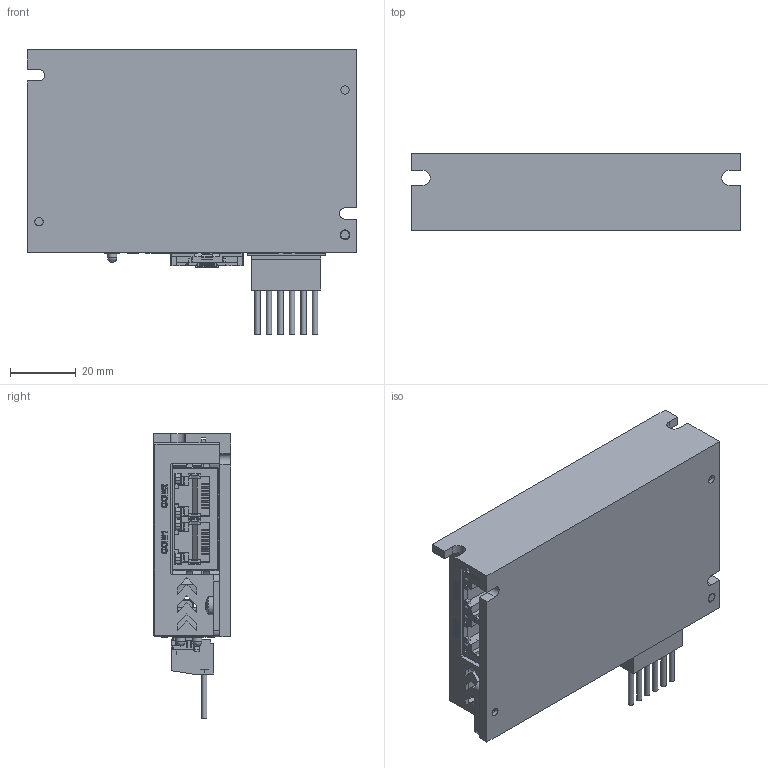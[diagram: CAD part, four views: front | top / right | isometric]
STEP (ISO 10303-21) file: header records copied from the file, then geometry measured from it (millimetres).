
FILE_DESCRIPTION (( 'STEP AP214' ), '1' );
FILE_NAME ('STF03_06-C 3D.STEP', '2019-09-11T17:57:34', ( 'Kevin' ), ( 'Hewlett-Packard Company' ), 'SwSTEP 2.0', 'SolidWorks 2016', '' );
FILE_SCHEMA (( 'AUTOMOTIVE_DESIGN' ));
Length unit declared in the file: millimetre
Products named in the file (10): 4713101002270-170919; 4299970002278.A0; 4713101002272; cross recessed pan head screws gb_GB_CROSS_SCREWS_TYPE1 M3X4-4  H type-N_2; cross recessed pan head screws gb_GB_CROSS_SCREWS_TYPE1 M3X4-4  H type-N; STF03奻裔; 5016462000; 6-3.5-g; M3肣翐; STF03_06-C 3D
Assembly tree (15 placements, depth 2):
  STF03_06-C 3D
    M3肣翐  x3
    6-3.5-g
    5016462000
    STF03奻裔
    cross recessed pan head screws gb_GB_CROSS_SCREWS_TYPE1 M3X4-4  H type-N  x5
    cross recessed pan head screws gb_GB_CROSS_SCREWS_TYPE1 M3X4-4  H type-N_2
    4713101002272
    4299970002278.A0
    4713101002270-170919
Bounding box: 100 x 23.5 x 86.56 mm (x, y, z)
Volume: 63622.8 mm3; surface area: 74715.8 mm2
Topology: 24 solids, 24 shells, 3165 faces, 8375 edges, 5448 vertices
Faces by surface type: plane 2236, cylinder 619, bspline 291, cone 15, torus 4
Full cylindrical faces by diameter (mm): 0.6 x28, 0.8 x28, 0.85 x2, 0.9 x32, 1 x28, 1.1 x2, 1.3 x6, 1.6 x6, 1.65 x3, 2.4 x3, 2.5 x9, 2.9 x8, 3 x9, 3.2 x6, 3.25 x2, 3.3 x2, 5 x3, 5.6 x6
Entity records: 109280 total; most frequent: CARTESIAN_POINT 30281, ORIENTED_EDGE 15824, DIRECTION 13708, EDGE_CURVE 7912, LINE 6188, VECTOR 6188, VERTEX_POINT 5263, EDGE_LOOP 3777
